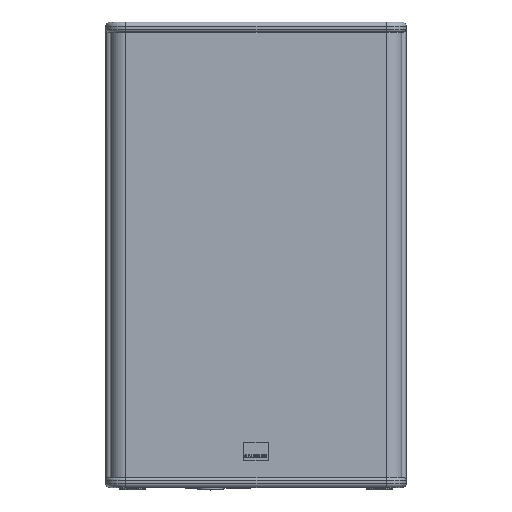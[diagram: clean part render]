
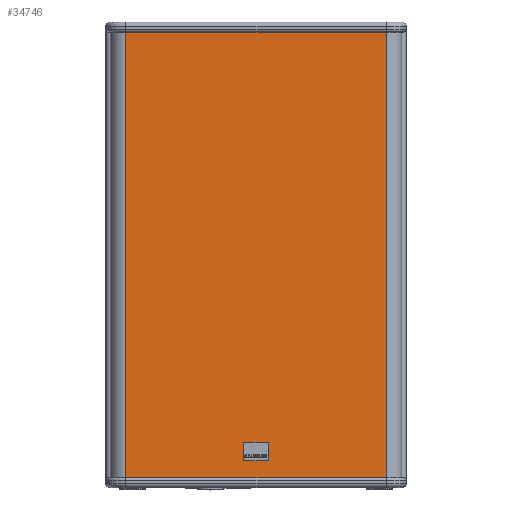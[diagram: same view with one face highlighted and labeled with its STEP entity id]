
A CAD part, top view. The second image highlights one B-rep face of the part: STEP entity #34746.
In plain terms, the highlighted planar face has unit normal (0, 0, 1) as drawn and (0, -1, 0) by its records, which use the part's own axes.
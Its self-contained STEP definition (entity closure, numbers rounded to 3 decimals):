
#20861 = CARTESIAN_POINT ( 'NONE',  ( 420., 6.5, 1270. ) ) ;
#20862 = DIRECTION ( 'NONE',  ( 1., 0., 0. ) ) ;
#20863 = VECTOR ( 'NONE', #20862, 1000. ) ;
#20864 = CARTESIAN_POINT ( 'NONE',  ( 225., 6.5, 1270. ) ) ;
#20866 = DIRECTION ( 'NONE',  ( 1., 0., 0. ) ) ;
#20867 = DIRECTION ( 'NONE',  ( 0., -1., 0. ) ) ;
#20868 = CARTESIAN_POINT ( 'NONE',  ( 30., 6.5, 1270. ) ) ;
#20869 = AXIS2_PLACEMENT_3D ( 'NONE', #20868, #20867, #20866 ) ;
#20870 = PLANE ( 'NONE',  #20869 ) ;
#20871 = LINE ( 'NONE', #20864, #20863 ) ;
#20873 = FACE_OUTER_BOUND ( 'NONE', #34747, .T. ) ;
#20914 = CARTESIAN_POINT ( 'NONE',  ( 30., 6.5, 1270. ) ) ;
#20915 = LINE ( 'NONE', #20978, #20976 ) ;
#20916 = CARTESIAN_POINT ( 'NONE',  ( 420., 6.5, 602. ) ) ;
#20917 = DIRECTION ( 'NONE',  ( 1., 0., 0. ) ) ;
#20918 = VECTOR ( 'NONE', #20917, 1000. ) ;
#20919 = CARTESIAN_POINT ( 'NONE',  ( 6.5, 6.5, 602. ) ) ;
#20920 = LINE ( 'NONE', #20919, #20918 ) ;
#20945 = CARTESIAN_POINT ( 'NONE',  ( 30., 6.5, 602. ) ) ;
#20975 = DIRECTION ( 'NONE',  ( 0., 0., -1. ) ) ;
#20976 = VECTOR ( 'NONE', #20975, 1000. ) ;
#20978 = CARTESIAN_POINT ( 'NONE',  ( 420., 6.5, 1270. ) ) ;
#21008 = DIRECTION ( 'NONE',  ( 0., 0., 1. ) ) ;
#21009 = VECTOR ( 'NONE', #21008, 1000. ) ;
#21010 = CARTESIAN_POINT ( 'NONE',  ( 30., 6.5, 1270. ) ) ;
#21011 = LINE ( 'NONE', #21010, #21009 ) ;
#34746 = ADVANCED_FACE ( 'NONE', ( #20873 ), #20870, .T. ) ;
#34747 = EDGE_LOOP ( 'NONE', ( #34748, #34751, #34803, #34806 ) ) ;
#34748 = ORIENTED_EDGE ( 'NONE', *, *, #34749, .F. ) ;
#34749 = EDGE_CURVE ( 'NONE', #34765, #34750, #20871, .T. ) ;
#34750 = VERTEX_POINT ( 'NONE', #20861 ) ;
#34751 = ORIENTED_EDGE ( 'NONE', *, *, #34823, .F. ) ;
#34765 = VERTEX_POINT ( 'NONE', #20914 ) ;
#34803 = ORIENTED_EDGE ( 'NONE', *, *, #34804, .T. ) ;
#34804 = EDGE_CURVE ( 'NONE', #34821, #34805, #20920, .T. ) ;
#34805 = VERTEX_POINT ( 'NONE', #20916 ) ;
#34806 = ORIENTED_EDGE ( 'NONE', *, *, #34807, .F. ) ;
#34807 = EDGE_CURVE ( 'NONE', #34750, #34805, #20915, .T. ) ;
#34821 = VERTEX_POINT ( 'NONE', #20945 ) ;
#34823 = EDGE_CURVE ( 'NONE', #34821, #34765, #21011, .T. ) ;
